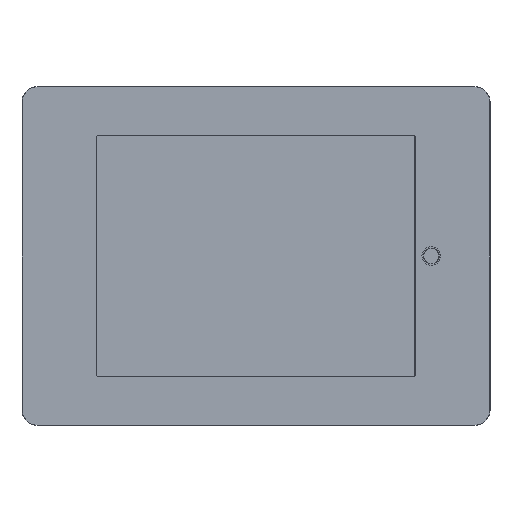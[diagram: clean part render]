
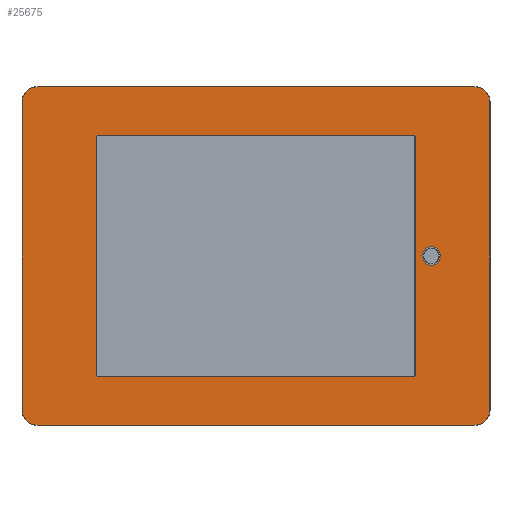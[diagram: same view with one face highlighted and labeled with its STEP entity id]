
A CAD part, top view. The second image highlights one B-rep face of the part: STEP entity #25675.
In plain terms, the highlighted planar face has unit normal (0, 0, 1).
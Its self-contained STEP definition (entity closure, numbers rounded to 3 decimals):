
#1508=FACE_BOUND('',#5167,.T.);
#1509=FACE_BOUND('',#5168,.T.);
#2051=PLANE('',#28163);
#3434=FACE_OUTER_BOUND('',#5166,.T.);
#5166=EDGE_LOOP('',(#22494,#22495,#22496,#22497,#22498,#22499,#22500,#22501));
#5167=EDGE_LOOP('',(#22502,#22503,#22504,#22505,#22506,#22507,#22508,#22509));
#5168=EDGE_LOOP('',(#22510));
#7126=LINE('',#47860,#9234);
#7127=LINE('',#47869,#9235);
#7129=LINE('',#47879,#9237);
#7131=LINE('',#47891,#9239);
#7135=LINE('',#47906,#9243);
#7136=LINE('',#47910,#9244);
#7137=LINE('',#47914,#9245);
#7138=LINE('',#47917,#9246);
#9234=VECTOR('',#34281,10.);
#9235=VECTOR('',#34294,10.);
#9237=VECTOR('',#34306,10.);
#9239=VECTOR('',#34320,10.);
#9243=VECTOR('',#34340,10.);
#9244=VECTOR('',#34343,10.);
#9245=VECTOR('',#34346,10.);
#9246=VECTOR('',#34349,10.);
#10580=CIRCLE('',#28143,9.8);
#10583=CIRCLE('',#28148,9.8);
#10587=CIRCLE('',#28154,9.8);
#10590=CIRCLE('',#28159,9.8);
#10591=CIRCLE('',#28164,1.5);
#10592=CIRCLE('',#28165,1.5);
#10593=CIRCLE('',#28166,1.5);
#10594=CIRCLE('',#28167,1.5);
#10595=CIRCLE('',#28168,6.1);
#12484=VERTEX_POINT('',#47857);
#12485=VERTEX_POINT('',#47859);
#12486=VERTEX_POINT('',#47863);
#12487=VERTEX_POINT('',#47867);
#12488=VERTEX_POINT('',#47871);
#12489=VERTEX_POINT('',#47875);
#12491=VERTEX_POINT('',#47881);
#12493=VERTEX_POINT('',#47887);
#12495=VERTEX_POINT('',#47902);
#12496=VERTEX_POINT('',#47903);
#12497=VERTEX_POINT('',#47905);
#12498=VERTEX_POINT('',#47907);
#12499=VERTEX_POINT('',#47909);
#12500=VERTEX_POINT('',#47911);
#12501=VERTEX_POINT('',#47913);
#12502=VERTEX_POINT('',#47915);
#12503=VERTEX_POINT('',#47918);
#15890=EDGE_CURVE('',#12484,#12485,#7126,.T.);
#15893=EDGE_CURVE('',#12485,#12486,#10580,.T.);
#15895=EDGE_CURVE('',#12486,#12487,#7127,.T.);
#15897=EDGE_CURVE('',#12487,#12488,#10583,.T.);
#15900=EDGE_CURVE('',#12488,#12489,#7129,.T.);
#15903=EDGE_CURVE('',#12489,#12491,#10587,.T.);
#15906=EDGE_CURVE('',#12491,#12493,#7131,.T.);
#15908=EDGE_CURVE('',#12493,#12484,#10590,.T.);
#15912=EDGE_CURVE('',#12495,#12496,#10591,.T.);
#15913=EDGE_CURVE('',#12496,#12497,#7135,.T.);
#15914=EDGE_CURVE('',#12497,#12498,#10592,.T.);
#15915=EDGE_CURVE('',#12498,#12499,#7136,.T.);
#15916=EDGE_CURVE('',#12499,#12500,#10593,.T.);
#15917=EDGE_CURVE('',#12500,#12501,#7137,.T.);
#15918=EDGE_CURVE('',#12501,#12502,#10594,.T.);
#15919=EDGE_CURVE('',#12502,#12495,#7138,.T.);
#15920=EDGE_CURVE('',#12503,#12503,#10595,.T.);
#22494=ORIENTED_EDGE('',*,*,#15890,.F.);
#22495=ORIENTED_EDGE('',*,*,#15908,.F.);
#22496=ORIENTED_EDGE('',*,*,#15906,.F.);
#22497=ORIENTED_EDGE('',*,*,#15903,.F.);
#22498=ORIENTED_EDGE('',*,*,#15900,.F.);
#22499=ORIENTED_EDGE('',*,*,#15897,.F.);
#22500=ORIENTED_EDGE('',*,*,#15895,.F.);
#22501=ORIENTED_EDGE('',*,*,#15893,.F.);
#22502=ORIENTED_EDGE('',*,*,#15912,.T.);
#22503=ORIENTED_EDGE('',*,*,#15913,.T.);
#22504=ORIENTED_EDGE('',*,*,#15914,.T.);
#22505=ORIENTED_EDGE('',*,*,#15915,.T.);
#22506=ORIENTED_EDGE('',*,*,#15916,.T.);
#22507=ORIENTED_EDGE('',*,*,#15917,.T.);
#22508=ORIENTED_EDGE('',*,*,#15918,.T.);
#22509=ORIENTED_EDGE('',*,*,#15919,.T.);
#22510=ORIENTED_EDGE('',*,*,#15920,.T.);
#25675=ADVANCED_FACE('',(#3434,#1508,#1509),#2051,.T.);
#28143=AXIS2_PLACEMENT_3D('',#47865,#34288,#34289);
#28148=AXIS2_PLACEMENT_3D('',#47873,#34299,#34300);
#28154=AXIS2_PLACEMENT_3D('',#47885,#34313,#34314);
#28159=AXIS2_PLACEMENT_3D('',#47894,#34325,#34326);
#28163=AXIS2_PLACEMENT_3D('',#47901,#34336,#34337);
#28164=AXIS2_PLACEMENT_3D('',#47904,#34338,#34339);
#28165=AXIS2_PLACEMENT_3D('',#47908,#34341,#34342);
#28166=AXIS2_PLACEMENT_3D('',#47912,#34344,#34345);
#28167=AXIS2_PLACEMENT_3D('',#47916,#34347,#34348);
#28168=AXIS2_PLACEMENT_3D('',#47919,#34350,#34351);
#34281=DIRECTION('',(1.,0.,0.));
#34288=DIRECTION('center_axis',(0.,0.,-1.));
#34289=DIRECTION('ref_axis',(0.707,0.707,0.));
#34294=DIRECTION('',(0.,-1.,0.));
#34299=DIRECTION('center_axis',(0.,0.,-1.));
#34300=DIRECTION('ref_axis',(0.707,-0.707,0.));
#34306=DIRECTION('',(-1.,0.,0.));
#34313=DIRECTION('center_axis',(0.,0.,-1.));
#34314=DIRECTION('ref_axis',(-0.707,-0.707,0.));
#34320=DIRECTION('',(0.,1.,0.));
#34325=DIRECTION('center_axis',(0.,0.,-1.));
#34326=DIRECTION('ref_axis',(-0.707,0.707,0.));
#34336=DIRECTION('center_axis',(0.,0.,1.));
#34337=DIRECTION('ref_axis',(1.,0.,0.));
#34338=DIRECTION('center_axis',(0.,0.,-1.));
#34339=DIRECTION('ref_axis',(0.,1.,0.));
#34340=DIRECTION('',(-1.,0.,0.));
#34341=DIRECTION('center_axis',(0.,0.,-1.));
#34342=DIRECTION('ref_axis',(1.,0.,0.));
#34343=DIRECTION('',(0.,1.,0.));
#34344=DIRECTION('center_axis',(0.,0.,-1.));
#34345=DIRECTION('ref_axis',(0.,-1.,0.));
#34346=DIRECTION('',(1.,0.,0.));
#34347=DIRECTION('center_axis',(0.,0.,-1.));
#34348=DIRECTION('ref_axis',(-1.,0.,0.));
#34349=DIRECTION('',(0.,-1.,0.));
#34350=DIRECTION('center_axis',(0.,0.,-1.));
#34351=DIRECTION('ref_axis',(-1.,0.,0.));
#47857=CARTESIAN_POINT('',(-144.,111.3,0.));
#47859=CARTESIAN_POINT('',(144.,111.3,0.));
#47860=CARTESIAN_POINT('',(-72.,111.3,0.));
#47863=CARTESIAN_POINT('',(153.8,101.5,0.));
#47865=CARTESIAN_POINT('Origin',(144.,101.5,0.));
#47867=CARTESIAN_POINT('',(153.8,-101.5,0.));
#47869=CARTESIAN_POINT('',(153.8,50.75,0.));
#47871=CARTESIAN_POINT('',(144.,-111.3,0.));
#47873=CARTESIAN_POINT('Origin',(144.,-101.5,0.));
#47875=CARTESIAN_POINT('',(-144.,-111.3,0.));
#47879=CARTESIAN_POINT('',(72.,-111.3,0.));
#47881=CARTESIAN_POINT('',(-153.8,-101.5,0.));
#47885=CARTESIAN_POINT('Origin',(-144.,-101.5,0.));
#47887=CARTESIAN_POINT('',(-153.8,101.5,0.));
#47891=CARTESIAN_POINT('',(-153.8,-50.75,0.));
#47894=CARTESIAN_POINT('Origin',(-144.,101.5,0.));
#47901=CARTESIAN_POINT('Origin',(0.,0.,
0.));
#47902=CARTESIAN_POINT('',(105.2,-77.7,0.));
#47903=CARTESIAN_POINT('',(103.7,-79.2,0.));
#47904=CARTESIAN_POINT('Origin',(103.7,-77.7,0.));
#47905=CARTESIAN_POINT('',(-103.7,-79.2,0.));
#47906=CARTESIAN_POINT('',(51.85,-79.2,0.));
#47907=CARTESIAN_POINT('',(-105.2,-77.7,0.));
#47908=CARTESIAN_POINT('Origin',(-103.7,-77.7,0.));
#47909=CARTESIAN_POINT('',(-105.2,77.7,0.));
#47910=CARTESIAN_POINT('',(-105.2,-38.85,0.));
#47911=CARTESIAN_POINT('',(-103.7,79.2,0.));
#47912=CARTESIAN_POINT('Origin',(-103.7,77.7,0.));
#47913=CARTESIAN_POINT('',(103.7,79.2,0.));
#47914=CARTESIAN_POINT('',(-51.85,79.2,0.));
#47915=CARTESIAN_POINT('',(105.2,77.7,0.));
#47916=CARTESIAN_POINT('Origin',(103.7,77.7,0.));
#47917=CARTESIAN_POINT('',(105.2,38.85,0.));
#47918=CARTESIAN_POINT('',(-109.185,0.,0.));
#47919=CARTESIAN_POINT('Origin',(-115.285,0.,
0.));
